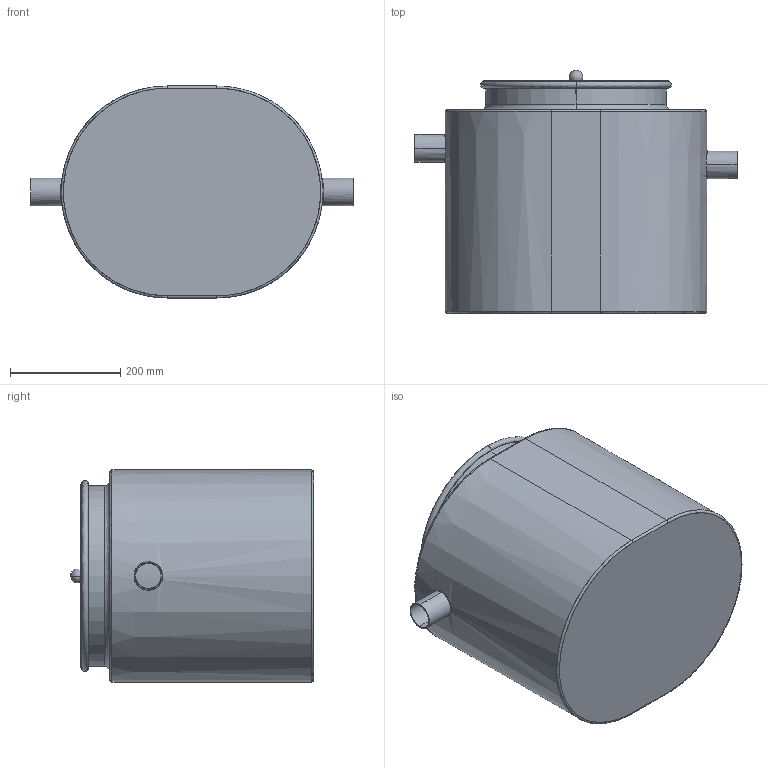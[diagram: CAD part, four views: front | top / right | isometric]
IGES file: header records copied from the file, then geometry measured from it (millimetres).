
Start section: SolidWorks IGES file using analytic representation for surfaces
Global section: file name: G:\Konst\02 Project Documents\02 Work In Progress\DE_2010_023_ Grease Seperator - Lipu-Mobil Stainless Steel (316)\INPUT\01 3D Models\73013040_STEP & IGES\73013040.IGS; native system: SolidWorks 2010; preprocessor: SolidWorks 2010; author: rmayya; date: 101228.104903; units: millimetre
Bounding box: 585 x 441.5 x 385 mm (x, y, z)
Surface area: 946496.5 mm2 (no closed solid volume)
Topology: 0 solids, 0 shells, 59 faces, 1360 edges, 1359 vertices
Faces by surface type: revolution 30, bspline 29
